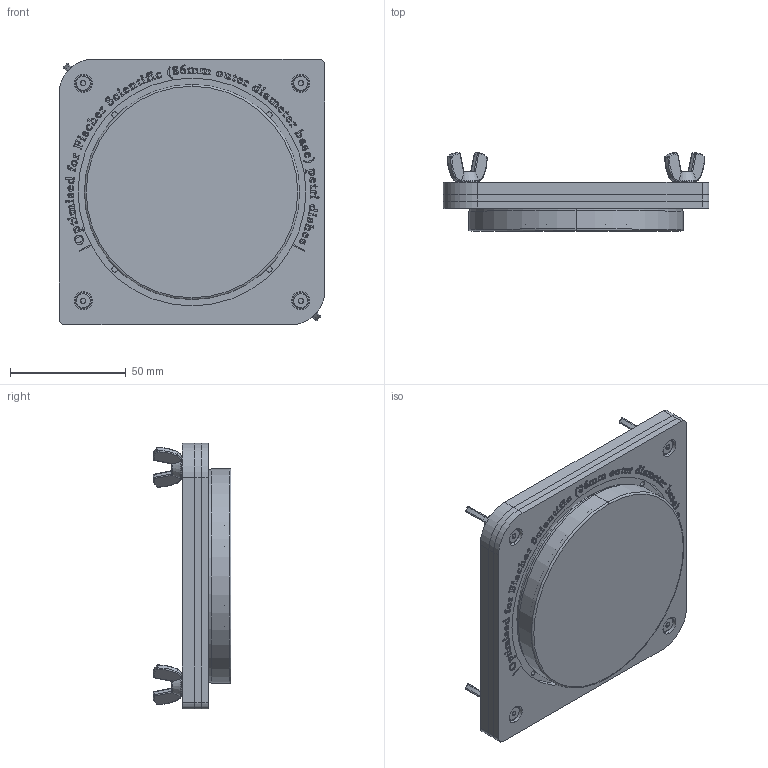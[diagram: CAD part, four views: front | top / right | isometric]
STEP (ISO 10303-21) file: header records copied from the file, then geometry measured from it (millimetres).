
FILE_DESCRIPTION (( 'STEP AP214' ), '1' );
FILE_NAME ('OUT-004-01-00.STEP', '2020-12-16T19:01:59', ( '' ), ( '' ), 'SwSTEP 2.0', 'SolidWorks 2020', '' );
FILE_SCHEMA (( 'AUTOMOTIVE_DESIGN' ));
Length unit declared in the file: millimetre
Products named in the file (13): 91780A193_ALUM FEM THRDED HEX STANDOFF_91780A193; OUT-004-01-02; ACR GLUE^OUT-004-02-00; OUT-004-02-XX_FISCHER_SPACER; Kord-Valmark Petri Dish; OUT-004-01-00; Fisher Petri Dish; 90665A112_LOW-PROFILE ALLOY STEEL SOCKET HEAD CAP SCREW_90665A112; OUT-004-02-00_Fischer; OUT-004-01-01_DEFAULT; OUT-004-02-XX_FISCHER_GRID HOLDER; o-ring^OUT-004-01-XX; 90866A009_ZINC-PLATED STEEL AND IRON WING NUTS_90866A009
Assembly tree (20 placements, depth 3):
  ACR GLUE^OUT-004-02-00
  OUT-004-01-00
    OUT-004-02-00_Fischer
      OUT-004-02-XX_FISCHER_GRID HOLDER
      OUT-004-02-XX_FISCHER_SPACER
      91780A193_ALUM FEM THRDED HEX STANDOFF_91780A193  x4
      90665A112_LOW-PROFILE ALLOY STEEL SOCKET HEAD CAP SCREW_90665A112  x4
    OUT-004-01-01_DEFAULT
    OUT-004-01-02
    o-ring^OUT-004-01-XX
    90866A009_ZINC-PLATED STEEL AND IRON WING NUTS_90866A009  x4
    Fisher Petri Dish
    Kord-Valmark Petri Dish
Bounding box: 115 x 33.71 x 115 mm (x, y, z)
Volume: 125621.5 mm3; surface area: 146491.4 mm2
Topology: 19 solids, 21 shells, 4326 faces, 11785 edges, 7672 vertices
Faces by surface type: bspline 1909, plane 1721, cylinder 426, cone 168, torus 102
Entity records: 170705 total; most frequent: CARTESIAN_POINT 88344, ORIENTED_EDGE 20612, DIRECTION 10394, EDGE_CURVE 10306, VERTEX_POINT 6742, LINE 6026, VECTOR 6026, EDGE_LOOP 3960
